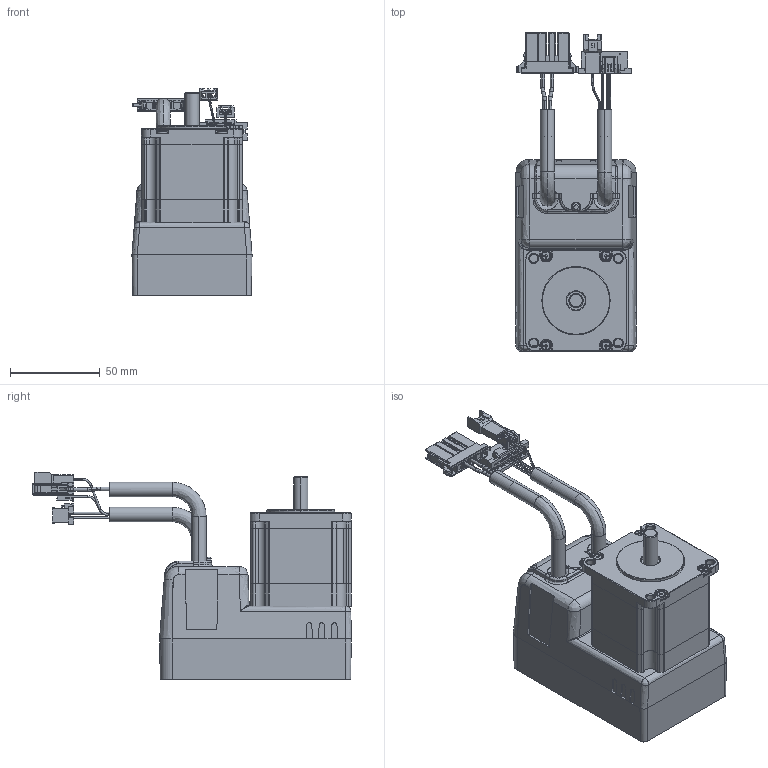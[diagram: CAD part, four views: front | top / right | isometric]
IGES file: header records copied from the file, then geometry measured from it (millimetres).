
Start section: SolidWorks IGES file using analytic representation for surfaces
Global section: file name: C:\3D---CAD_liuWorks\CM＊\CM2\ホームページー用向け\CM2-□-56B10C.IGS; native system: SolidWorks 2012; preprocessor: SolidWorks 2012; author: 3DCAD; date: 140225.132827; units: millimetre
Bounding box: 67 x 177.8 x 115.82 mm (x, y, z)
Surface area: 72832.9 mm2 (no closed solid volume)
Topology: 0 solids, 0 shells, 1655 faces, 12055 edges, 12045 vertices
Faces by surface type: bspline 1170, revolution 485
